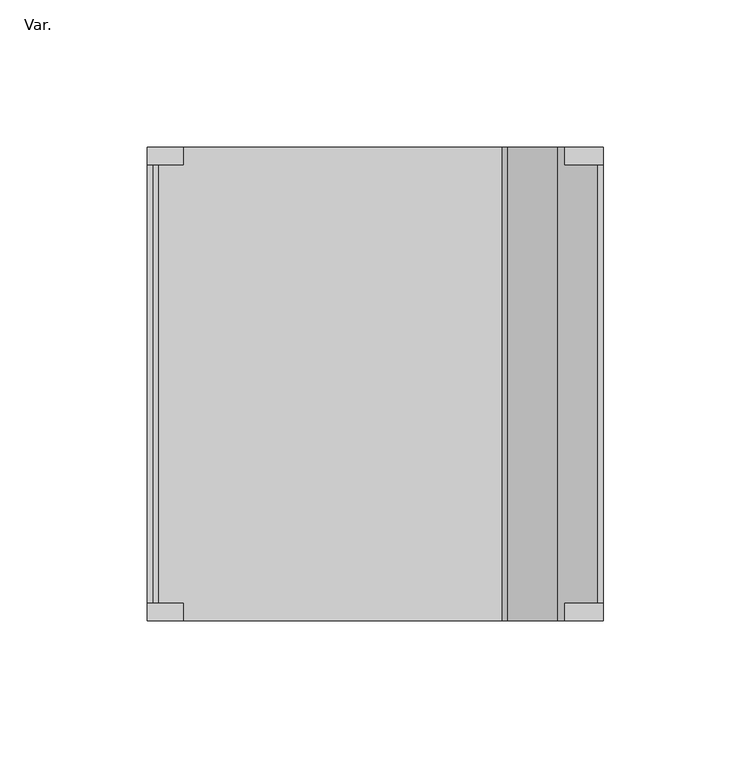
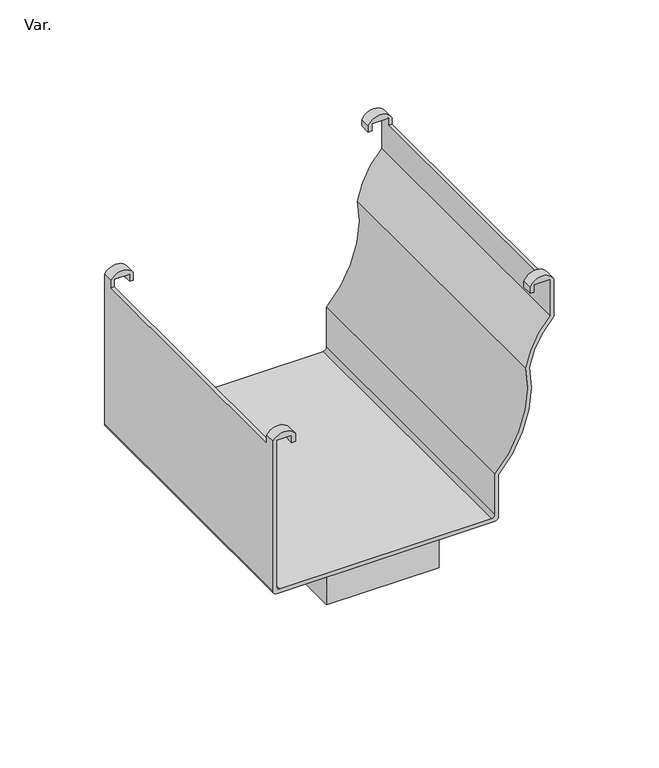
"""IFC4 building model written with IfcOpenShell, lengths in millimetres: pipe fitting geometry, AmancoWavin_Unionesdetubería_CanalesyBajantesZ_NoUsarBoquillaRectangularColonial : Var.."""

from ifc_helpers import new_model, si_unit, frame, origin, place, context, project, spatial, polyline, circle_curve, outline, extrude, source, transform, mapped, element, save
from ifc_brep_helpers import plane_surface, cylinder_surface, revolved_surface, advanced_brep


def var_02fd32d3(model_context):
    return source(origin(), model_context, "Body", "SolidModel", [
        advanced_brep(
        [(-75.6, 24.0, 1.9878921), (-75.6, 24.0, 87.3360329), (-67.2332146, 24.0, 87.3360329), (-67.2332146, 24.0, 83.1375), (-65.2131805, 24.0, 83.1375), (-65.2131805, 24.0, 87.7283195), (-77.5570947, 24.0, 87.4142443), (-77.5570947, 24.0, 0.0034652), (-75.5894136, 24.0, -1.9642158), (44.9967752, 24.0, -1.9642158), (46.9693639, 24.0, 0.0083729), (46.9693639, 24.0, 24.4356482), (63.9675595, 24.0, 81.1220171), (77.5463431, 24.0, 106.1564886), (77.5463431, 24.0, 127.7398981), (64.4599451, 24.0, 127.3727618), (64.4599451, 24.0, 124.075), (66.4799725, 24.0, 124.075), (66.4799725, 24.0, 128.248325), (75.6, 24.0, 128.248325), (75.6, 24.0, 107.0001189), (61.9715873, 24.0, 81.1107714), (45.0, 24.0, 25.2323567), (45.0, 24.0, 1.9878921), (43.02, 24.0, 0.0078921), (-73.62, 24.0, 0.0078921), (-75.6, 185.0, 1.9878921), (-73.62, 185.0, 0.0078921), (43.02, 185.0, 0.0078921), (45.0, 185.0, 1.9878921), (45.0, 185.0, 25.2323567), (61.9715873, 185.0, 81.1107714), (75.6, 185.0, 107.0001189), (75.6, 185.0, 128.248325), (66.4799725, 185.0, 128.248325), (66.4799725, 185.0, 124.075), (64.4599451, 185.0, 124.075), (64.4599451, 185.0, 127.3727618), (77.5463431, 185.0, 127.7398981), (77.5463431, 185.0, 106.1564886), (63.9675595, 185.0, 81.1220171), (46.9693639, 185.0, 24.4356482), (46.9693639, 185.0, 0.0083729), (44.9967752, 185.0, -1.9642158), (-75.5894136, 185.0, -1.9642158), (-77.5570947, 185.0, 0.0034652), (-77.5570947, 185.0, 87.4142443), (-65.2131805, 185.0, 87.7283195), (-65.2131805, 185.0, 83.1375), (-67.2332146, 185.0, 83.1375), (-67.2332146, 185.0, 87.3360329), (-75.6, 185.0, 87.3360329), (-77.5570947, 30.0, 87.4142443), (-77.5570947, 30.0, 82.825), (-77.5570947, 179.0, 82.825), (-77.5570947, 179.0, 87.4142443), (77.5463431, 179.0, 127.7398981), (77.5463431, 179.0, 124.075), (77.5463431, 30.0, 124.075), (77.5463431, 30.0, 127.7398981), (75.6, 30.0, 128.248325), (75.6, 30.0, 124.075), (75.6, 179.0, 124.075), (75.6, 179.0, 128.248325), (-75.6, 179.0, 87.3360329), (-75.6, 179.0, 82.825), (-75.6, 30.0, 82.825), (-75.6, 30.0, 87.3360329), (-67.2332146, 30.0, 87.3360329), (-67.2332146, 179.0, 87.3360329), (-67.2332146, 30.0, 83.1375), (-67.2332146, 179.0, 83.1375), (-65.2131805, 30.0, 83.1375), (-65.2131805, 179.0, 83.1375), (-65.2131805, 30.0, 87.7283195), (-65.2131805, 179.0, 87.7283195), (64.4599451, 30.0, 127.3727618), (64.4599451, 30.0, 124.075), (64.4599451, 179.0, 124.075), (64.4599451, 179.0, 127.3727618), (66.4799725, 30.0, 124.075), (66.4799725, 179.0, 124.075), (66.4799725, 30.0, 128.248325), (66.4799725, 179.0, 128.248325)],
        [
            (0, 1),
            (1, 2),
            (2, 3),
            (3, 4),
            (4, 5),
            (5, 6, circle_curve(frame((-71.2838661, 24.0, 83.5910664), z_axis=(0.0, -1.0, 0.0), x_axis=(1.0, 0.0, 0.0)), 7.3464336)),
            (6, 7),
            (7, 8, circle_curve(frame((-75.5894136, 24.0, 0.0034652), z_axis=(0.0, -1.0, 0.0), x_axis=(1.0, 0.0, 0.0)), 1.967681)),
            (8, 9),
            (9, 10, circle_curve(frame((44.9967752, 24.0, 0.0083729), z_axis=(0.0, -1.0, 0.0), x_axis=(1.0, 0.0, 0.0)), 1.9725887)),
            (10, 11),
            (11, 12, circle_curve(frame((-0.2541378, 24.0, 69.4880285), z_axis=(0.0, -1.0, 0.0), x_axis=(1.0, 0.0, 0.0)), 65.2669602)),
            (12, 13, circle_curve(frame((109.823207, 24.0, 72.4495812), z_axis=(0.0, 1.0, 0.0), x_axis=(1.0, 0.0, 0.0)), 46.6685285)),
            (13, 14),
            (14, 15, circle_curve(frame((71.0817555, 24.0, 124.7542614), z_axis=(0.0, -1.0, 0.0), x_axis=(1.0, 0.0, 0.0)), 7.1207386)),
            (15, 16),
            (16, 17),
            (17, 18),
            (18, 19),
            (19, 20),
            (20, 21, circle_curve(frame((109.8360782, 24.0, 72.4461628), z_axis=(0.0, -1.0, 0.0), x_axis=(1.0, 0.0, 0.0)), 48.6424191)),
            (21, 22, circle_curve(frame((-0.2447036, 24.0, 69.4907783), z_axis=(0.0, 1.0, 0.0), x_axis=(1.0, 0.0, 0.0)), 63.2921092)),
            (22, 23),
            (23, 24, circle_curve(frame((43.02, 24.0, 1.9878921), z_axis=(0.0, 1.0, 0.0), x_axis=(1.0, 0.0, 0.0)), 1.98)),
            (24, 25),
            (25, 0, circle_curve(frame((-73.62, 24.0, 1.9878921), z_axis=(0.0, 1.0, 0.0), x_axis=(1.0, 0.0, 0.0)), 1.98)),
            (26, 27, circle_curve(frame((-73.62, 185.0, 1.9878921), z_axis=(0.0, -1.0, 0.0), x_axis=(1.0, 0.0, 0.0)), 1.98)),
            (27, 28),
            (28, 29, circle_curve(frame((43.02, 185.0, 1.9878921), z_axis=(0.0, -1.0, 0.0), x_axis=(1.0, 0.0, 0.0)), 1.98)),
            (29, 30),
            (30, 31, circle_curve(frame((-0.2447036, 185.0, 69.4907783), z_axis=(0.0, -1.0, 0.0), x_axis=(1.0, 0.0, 0.0)), 63.2921092)),
            (31, 32, circle_curve(frame((109.8360782, 185.0, 72.4461628), z_axis=(0.0, 1.0, 0.0), x_axis=(1.0, 0.0, 0.0)), 48.6424191)),
            (32, 33),
            (33, 34),
            (34, 35),
            (35, 36),
            (36, 37),
            (37, 38, circle_curve(frame((71.0817555, 185.0, 124.7542614), z_axis=(0.0, 1.0, 0.0), x_axis=(1.0, 0.0, 0.0)), 7.1207386)),
            (38, 39),
            (39, 40, circle_curve(frame((109.823207, 185.0, 72.4495812), z_axis=(0.0, -1.0, 0.0), x_axis=(1.0, 0.0, 0.0)), 46.6685285)),
            (40, 41, circle_curve(frame((-0.2541378, 185.0, 69.4880285), z_axis=(0.0, 1.0, 0.0), x_axis=(1.0, 0.0, 0.0)), 65.2669602)),
            (41, 42),
            (42, 43, circle_curve(frame((44.9967752, 185.0, 0.0083729), z_axis=(0.0, 1.0, 0.0), x_axis=(1.0, 0.0, 0.0)), 1.9725887)),
            (43, 44),
            (44, 45, circle_curve(frame((-75.5894136, 185.0, 0.0034652), z_axis=(0.0, 1.0, 0.0), x_axis=(1.0, 0.0, 0.0)), 1.967681)),
            (45, 46),
            (46, 47, circle_curve(frame((-71.2838661, 185.0, 83.5910664), z_axis=(0.0, 1.0, 0.0), x_axis=(1.0, 0.0, 0.0)), 7.3464336)),
            (47, 48),
            (48, 49),
            (49, 50),
            (50, 51),
            (51, 26),
            (6, 52),
            (52, 53),
            (53, 54),
            (54, 55),
            (55, 46),
            (45, 7),
            (8, 44),
            (43, 9),
            (13, 39),
            (38, 56),
            (56, 57),
            (57, 58),
            (58, 59),
            (59, 14),
            (19, 60),
            (60, 61),
            (61, 62),
            (62, 63),
            (63, 33),
            (32, 20),
            (24, 28),
            (27, 25),
            (0, 26),
            (51, 64),
            (64, 65),
            (65, 66),
            (66, 67),
            (67, 1),
            (67, 68),
            (68, 2),
            (50, 69),
            (69, 64),
            (68, 70),
            (70, 3),
            (49, 71),
            (71, 69),
            (70, 72),
            (72, 4),
            (48, 73),
            (73, 71),
            (72, 74),
            (74, 5),
            (47, 75),
            (75, 73),
            (74, 52, circle_curve(frame((-71.2838661, 30.0, 83.5910664), z_axis=(0.0, -1.0, 0.0), x_axis=(1.0, 0.0, 0.0)), 7.3464336)),
            (55, 75, circle_curve(frame((-71.2838661, 179.0, 83.5910664), z_axis=(0.0, 1.0, 0.0), x_axis=(1.0, 0.0, 0.0)), 7.3464336)),
            (15, 76),
            (76, 77),
            (77, 16),
            (36, 78),
            (78, 79),
            (79, 37),
            (77, 80),
            (80, 17),
            (35, 81),
            (81, 78),
            (80, 82),
            (82, 18),
            (34, 83),
            (83, 81),
            (82, 60),
            (63, 83),
            (10, 42),
            (41, 11),
            (40, 12),
            (22, 30),
            (29, 23),
            (31, 21),
            (65, 54),
            (53, 66),
            (57, 62),
            (61, 58),
            (56, 79, circle_curve(frame((71.0817555, 179.0, 124.7542614), z_axis=(0.0, -1.0, 0.0), x_axis=(1.0, 0.0, 0.0)), 7.1207386)),
            (76, 59, circle_curve(frame((71.0817555, 30.0, 124.7542614), z_axis=(0.0, 1.0, 0.0), x_axis=(1.0, 0.0, 0.0)), 7.1207386)),
        ],
        [
            plane_surface(frame((-75.6, 24.0, 85.7735329), z_axis=(0.0, -1.0, 0.0), x_axis=(0.0, 0.0, 1.0))),
            plane_surface(frame((-75.6, 185.0, 85.7735329), z_axis=(0.0, 1.0, 0.0), x_axis=(0.0, 0.0, -1.0))),
            plane_surface(frame((-77.5570947, 24.0, 87.4142443), z_axis=(-1.0, 0.0, 0.0), x_axis=(0.0, 1.0, 0.0))),
            plane_surface(frame((-75.5894136, 24.0, -1.9642158), z_axis=(0.0, 0.0, -1.0), x_axis=(0.0, 1.0, 0.0))),
            plane_surface(frame((77.5463431, 24.0, 106.1564886), z_axis=(1.0, 0.0, 0.0), x_axis=(0.0, 1.0, 0.0))),
            plane_surface(frame((75.6, 24.0, 128.248325), z_axis=(-1.0, 0.0, 0.0), x_axis=(0.0, 1.0, 0.0))),
            plane_surface(frame((43.02, 24.0, 0.0078921), z_axis=(0.0, 0.0, 1.0), x_axis=(0.0, 1.0, 0.0))),
            plane_surface(frame((-75.6, 24.0, 1.9878921), z_axis=(1.0, 0.0, 0.0), x_axis=(0.0, 1.0, 0.0))),
            plane_surface(frame((-75.6, 24.0, 87.3360329), z_axis=(0.0, 0.0, -1.0), x_axis=(0.0, 1.0, 0.0))),
            plane_surface(frame((-67.2332146, 24.0, 87.3360329), z_axis=(-1.0, 0.0, 0.0), x_axis=(0.0, 1.0, 0.0))),
            plane_surface(frame((-67.2332146, 24.0, 83.1375), z_axis=(0.0, 0.0, -1.0), x_axis=(0.0, 1.0, 0.0))),
            plane_surface(frame((-65.2131805, 24.0, 83.1375), z_axis=(1.0, 0.0, 0.0), x_axis=(0.0, 1.0, 0.0))),
            cylinder_surface(frame((-71.2838661, 185.0, 83.5910664), z_axis=(0.0, -1.0, 0.0), x_axis=(1.0, 0.0, 0.0)), 7.3464336),
            plane_surface(frame((64.4599451, 24.0, 127.3727618), z_axis=(-1.0, 0.0, 0.0), x_axis=(0.0, 1.0, 0.0))),
            plane_surface(frame((64.4599451, 24.0, 124.075), z_axis=(0.0, 0.0, -1.0), x_axis=(0.0, 1.0, 0.0))),
            plane_surface(frame((66.4799725, 24.0, 124.075), z_axis=(1.0, 0.0, 0.0), x_axis=(0.0, 1.0, 0.0))),
            plane_surface(frame((66.4799725, 24.0, 128.248325), z_axis=(0.0, 0.0, -1.0), x_axis=(0.0, 1.0, 0.0))),
            plane_surface(frame((46.9693639, 24.0, 0.0083729), z_axis=(1.0, 0.0, 0.0), x_axis=(0.0, 1.0, 0.0))),
            cylinder_surface(frame((-0.2541378, 185.0, 69.4880285), z_axis=(0.0, -1.0, 0.0), x_axis=(1.0, 0.0, 0.0)), 65.2669602),
            plane_surface(frame((45.0, 24.0, 25.2323567), z_axis=(-1.0, 0.0, 0.0), x_axis=(0.0, 1.0, 0.0))),
            revolved_surface(polyline([(156.4917355, 185.0, 72.4495812), (156.4917355, 24.0, 72.4495812)]), (109.823207, 185.0, 72.4495812), (0.0, 1.0, 0.0)),
            cylinder_surface(frame((109.8360782, 185.0, 72.4461628), z_axis=(0.0, -1.0, 0.0), x_axis=(1.0, 0.0, 0.0)), 48.6424191),
            revolved_surface(polyline([(63.0474056, 185.0, 69.4907783), (63.0474056, 24.0, 69.4907783)]), (-0.2447036, 185.0, 69.4907783), (0.0, 1.0, 0.0)),
            cylinder_surface(frame((-75.5894136, 185.0, 0.0034652), z_axis=(0.0, -1.0, 0.0), x_axis=(1.0, 0.0, 0.0)), 1.967681),
            cylinder_surface(frame((44.9967752, 185.0, 0.0083729), z_axis=(0.0, -1.0, 0.0), x_axis=(1.0, 0.0, 0.0)), 1.9725887),
            revolved_surface(polyline([(45.0, 185.0, 1.9878921), (45.0, 24.0, 1.9878921)]), (43.02, 185.0, 1.9878921), (0.0, 1.0, 0.0)),
            revolved_surface(polyline([(-71.64, 185.0, 1.9878921), (-71.64, 24.0, 1.9878921)]), (-73.62, 185.0, 1.9878921), (0.0, 1.0, 0.0)),
            plane_surface(frame((-75.6, 179.0, 82.825), z_axis=(0.0, 0.0, 1.0), x_axis=(1.0, 0.0, 0.0))),
            plane_surface(frame((-65.2131805, 179.0, 91.0438047), z_axis=(0.0, -1.0, 0.0), x_axis=(0.0, 0.0, -1.0))),
            plane_surface(frame((-77.5570947, 30.0, 91.0438047), z_axis=(0.0, 1.0, 0.0), x_axis=(0.0, 0.0, -1.0))),
            plane_surface(frame((66.48, 179.0, 124.075), z_axis=(0.0, 0.0, 1.0), x_axis=(1.0, 0.0, 0.0))),
            plane_surface(frame((77.5463431, 179.0, 132.2959788), z_axis=(0.0, -1.0, 0.0), x_axis=(0.0, 0.0, -1.0))),
            plane_surface(frame((64.4599451, 30.0, 132.2959788), z_axis=(0.0, 1.0, 0.0), x_axis=(0.0, 0.0, -1.0))),
            cylinder_surface(frame((71.0817555, 185.0, 124.7542614), z_axis=(0.0, -1.0, 0.0), x_axis=(1.0, 0.0, 0.0)), 7.1207386),
        ],
        [
            (0, [[1, 2, 3, 4, 5, 6, 7, 8, 9, 10, 11, 12, 13, 14, 15, 16, 17, 18, 19, 20, 21, 22, 23, 24, 25, 26]]),
            (1, [[27, 28, 29, 30, 31, 32, 33, 34, 35, 36, 37, 38, 39, 40, 41, 42, 43, 44, 45, 46, 47, 48, 49, 50, 51, 52]]),
            (2, [[-7, 53, 54, 55, 56, 57, -46, 58]]),
            (3, [[-9, 59, -44, 60]]),
            (4, [[-14, 61, -39, 62, 63, 64, 65, 66]]),
            (5, [[-20, 67, 68, 69, 70, 71, -33, 72]]),
            (6, [[-25, 73, -28, 74]]),
            (7, [[-1, 75, -52, 76, 77, 78, 79, 80]]),
            (8, [[-2, -80, 81, 82]]),
            (8, [[-51, 83, 84, -76]]),
            (9, [[-3, -82, 85, 86]]),
            (9, [[-50, 87, 88, -83]]),
            (10, [[-4, -86, 89, 90]]),
            (10, [[-49, 91, 92, -87]]),
            (11, [[-5, -90, 93, 94]]),
            (11, [[-48, 95, 96, -91]]),
            (12, [[-6, -94, 97, -53]]),
            (12, [[-47, -57, 98, -95]]),
            (13, [[-16, 99, 100, 101]]),
            (13, [[-37, 102, 103, 104]]),
            (14, [[-17, -101, 105, 106]]),
            (14, [[-36, 107, 108, -102]]),
            (15, [[-18, -106, 109, 110]]),
            (15, [[-35, 111, 112, -107]]),
            (16, [[-19, -110, 113, -67]]),
            (16, [[-34, -71, 114, -111]]),
            (17, [[-11, 115, -42, 116]]),
            (18, [[-12, -116, -41, 117]]),
            (19, [[-23, 118, -30, 119]]),
            (20, [[-13, -117, -40, -61]]),
            (21, [[-21, -72, -32, 120]]),
            (22, [[-22, -120, -31, -118]]),
            (23, [[-8, -58, -45, -59]]),
            (24, [[-10, -60, -43, -115]]),
            (25, [[-24, -119, -29, -73]]),
            (26, [[-26, -74, -27, -75]]),
            (27, [[121, -55, 122, -78]]),
            (28, [[-121, -77, -84, -88, -92, -96, -98, -56]]),
            (29, [[-122, -54, -97, -93, -89, -85, -81, -79]]),
            (30, [[123, -69, 124, -64]]),
            (31, [[-123, -63, 125, -103, -108, -112, -114, -70]]),
            (32, [[-124, -68, -113, -109, -105, -100, 126, -65]]),
            (33, [[-15, -66, -126, -99]]),
            (33, [[-38, -104, -125, -62]]),
        ],
    ),
        extrude(outline(polyline([(31.05, 155.55), (31.05, 53.45), (-31.05, 53.45), (-31.05, 155.55), (31.05, 155.55)]), holes=[polyline([(29.75, 154.25), (-29.75, 154.25), (-29.75, 54.75), (29.75, 54.75), (29.75, 154.25)])]), frame((0.0, 0.0, -41.98), z_axis=(0.0, 0.0, 1.0), x_axis=(1.0, 0.0, 0.0)), (0.0, 0.0, 1.0), 40.0157842),
    ])


if __name__ == "__main__":
    model = new_model("IFC4")
    model_context = context("Model", 3, world=origin())
    ifc_project = project(units=[si_unit("LENGTHUNIT", "METRE", prefix="MILLI")], contexts=[model_context])
    site = spatial("IfcSite", under=ifc_project)
    building = spatial("IfcBuilding", under=site)
    placement = place(None, origin())
    var_shape = var_02fd32d3(model_context)
    element("IfcPipeFitting", 1, ObjectType="AmancoWavin_Unionesdetubería_CanalesyBajantesZ_NoUsarBoquillaRectangularColonial : Var.", at=placement, inside=building, context=model_context, shape_type="MappedRepresentation", body=[
        mapped(var_shape, transform((0.0, 0.0, 0.0), x_axis=(1.0, 0.0, 0.0), y_axis=(0.0, 1.0, 0.0), z_axis=(0.0, 0.0, 1.0))),
    ])
    save(model, "model.ifc")
